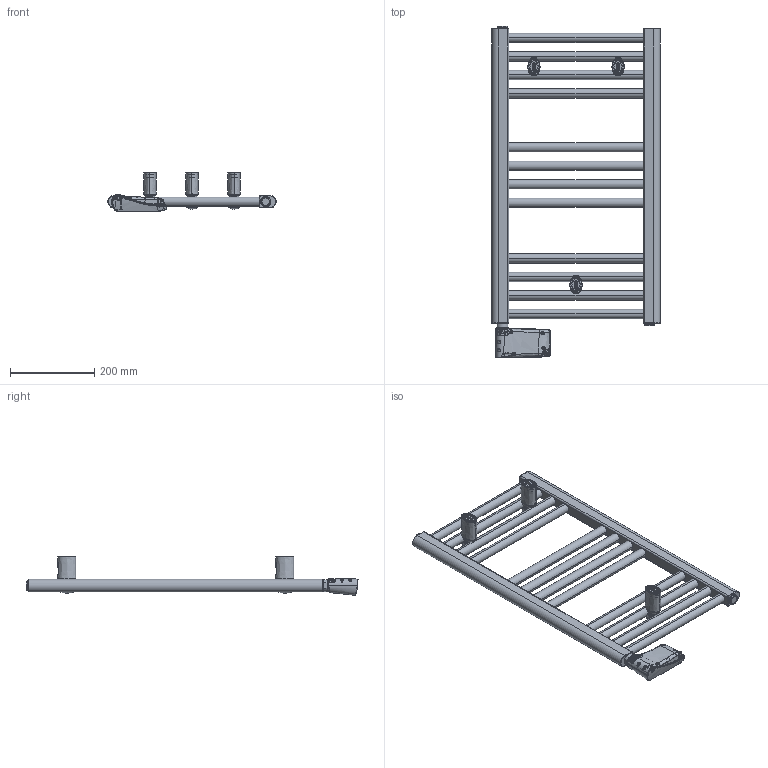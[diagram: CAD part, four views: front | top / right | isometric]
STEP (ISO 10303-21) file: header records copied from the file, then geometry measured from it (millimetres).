
FILE_DESCRIPTION((''),'2;1');
FILE_NAME('3581656100020_3D_SITO_ASM','2026-01-14T09:28:22',('PC132'),(''),'CREO PARAMETRIC BY PTC INC, 2025323','CREO PARAMETRIC BY PTC INC, 2025323','');
FILE_SCHEMA(('AUTOMOTIVE_DESIGN { 1 0 10303 214 1 1 1 1 }'));
Length unit declared in the file: millimetre
Products named in the file (15): 2551650500200_3D_SITO; BICCHIERE_PARETE; PERNO_SCORROVOLE; DADO_QUADRO_M5_X_GIUNTO; DADO_M6_X_GIUNTO; PERNO_SCORREVOLE_ASM; BASETTA_ANTERIORE; 1527181430001; VITE_CR_M5_16; VITE_CR_SV_M6_35; 1102001310058_ASM; 1010181240001; 1117000001010; 1035270000042; 3581656100020_3D_SITO_ASM
Assembly tree (17 placements, depth 4):
  3581656100020_3D_SITO_ASM
    2551650500200_3D_SITO
    1102001310058_ASM  x3
      BICCHIERE_PARETE
      PERNO_SCORREVOLE_ASM
        PERNO_SCORROVOLE
        DADO_QUADRO_M5_X_GIUNTO
        DADO_M6_X_GIUNTO
      BASETTA_ANTERIORE
      1527181430001
      VITE_CR_M5_16
      VITE_CR_SV_M6_35
    1010181240001  x2
    1117000001010
    1035270000042
Bounding box: 400 x 788.89 x 91.47 mm (x, y, z)
Volume: 3182448.1 mm3; surface area: 629530.1 mm2
Topology: 33 solids, 48 shells, 5700 faces, 12906 edges, 7316 vertices
Faces by surface type: cylinder 2110, plane 1239, torus 777, bspline 729, sphere 630, cone 143, extrusion 72
Entity records: 180900 total; most frequent: CARTESIAN_POINT 91758, DIRECTION 12289, ORIENTED_EDGE 12245, PRESENTATION_STYLE_ASSIGNMENT 6169, EDGE_CURVE 6151, STYLED_ITEM 6041, CURVE_STYLE 6021, AXIS2_PLACEMENT_3D 4807
